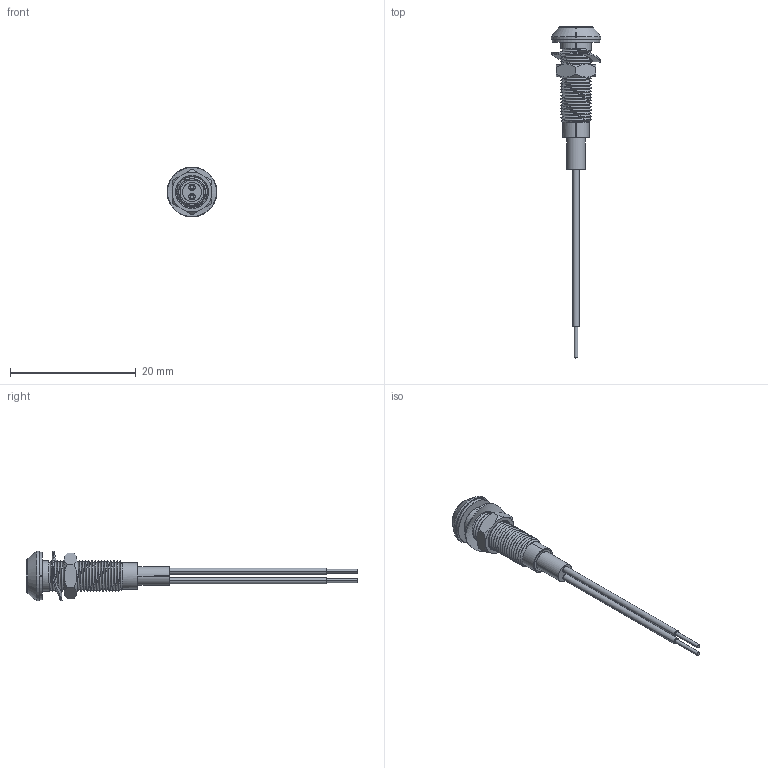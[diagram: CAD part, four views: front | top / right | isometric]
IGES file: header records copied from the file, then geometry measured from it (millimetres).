
Start section: SolidWorks IGES file using analytic representation for surfaces
Global section: file name: C:\Users\paulr\Desktop\604 series\604.IGS; native system: SolidWorks 2015; preprocessor: SolidWorks 2015; author: PaulR; date: 150729.113902; units: millimetre
Bounding box: 7.9 x 52.8 x 7.9 mm (x, y, z)
Surface area: 1238.7 mm2 (no closed solid volume)
Topology: 0 solids, 0 shells, 235 faces, 3350 edges, 3350 vertices
Faces by surface type: revolution 132, bspline 103
